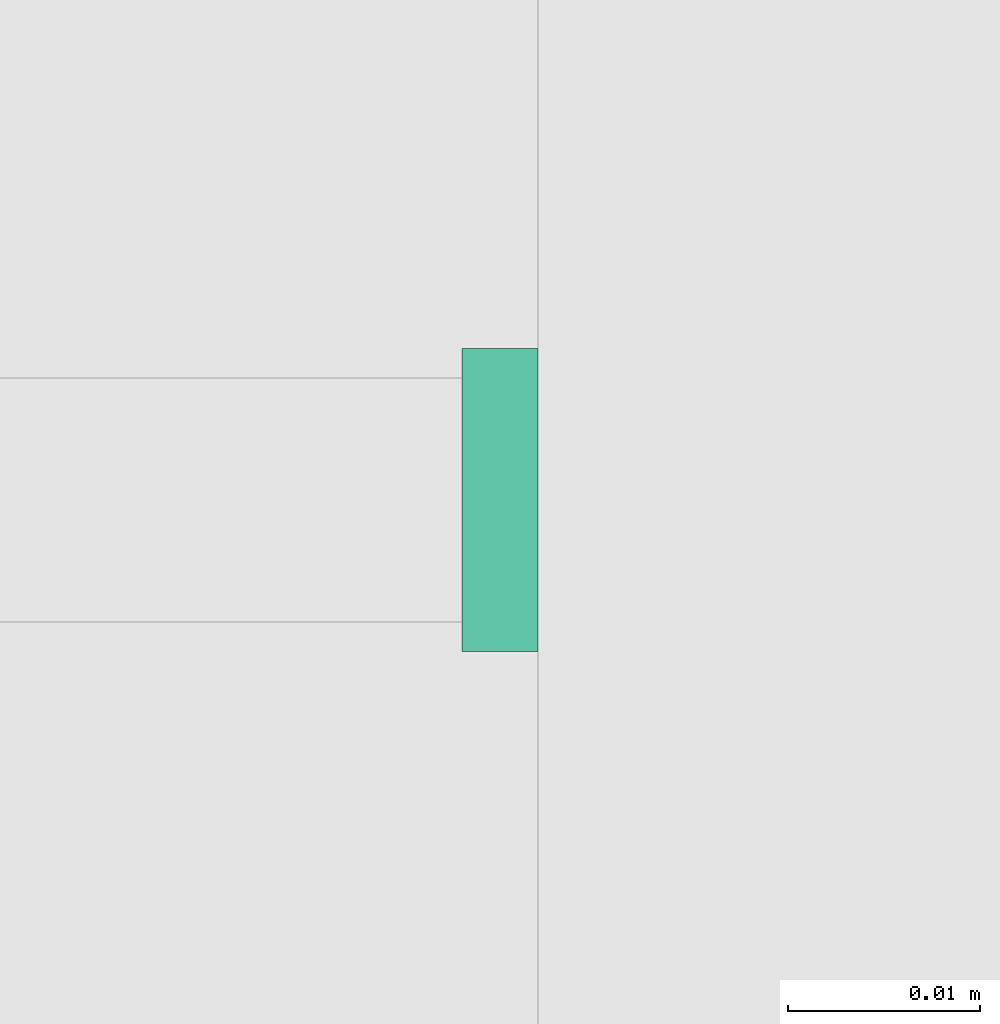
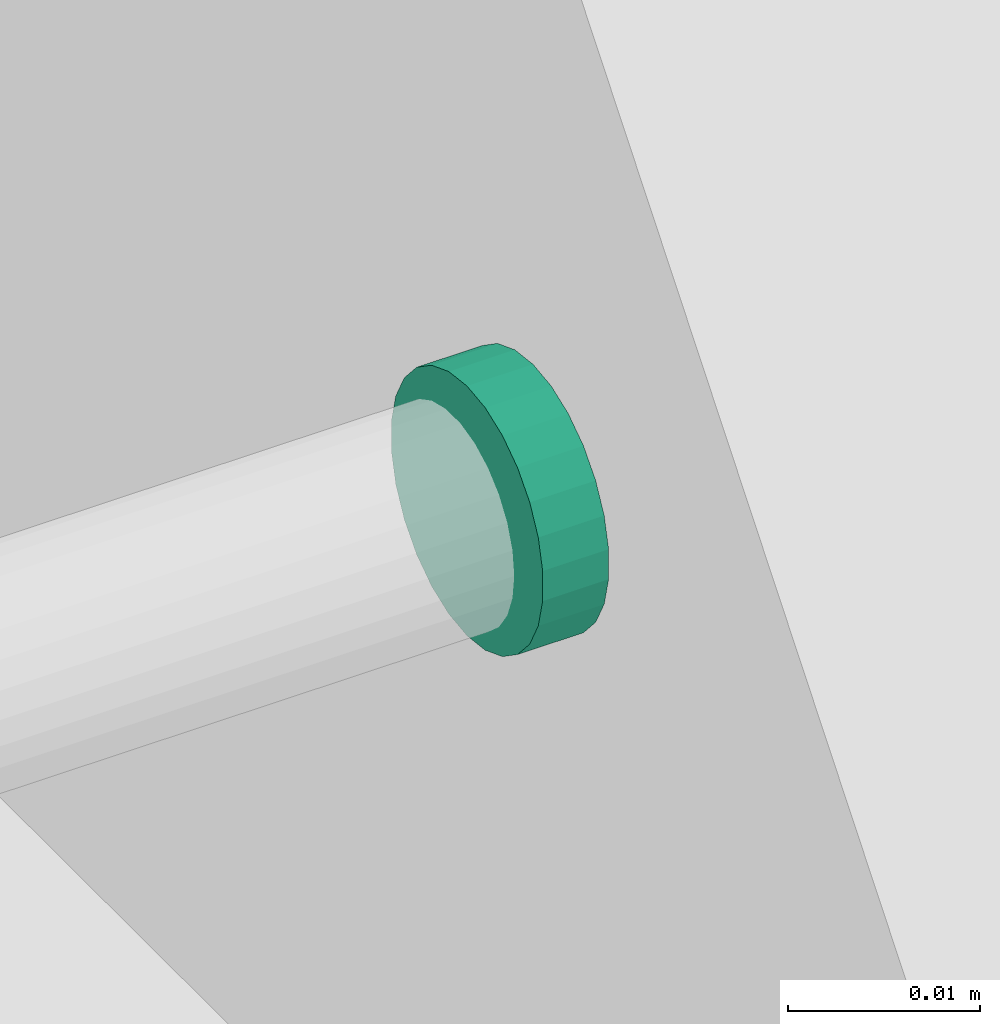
# One storey, part 17 of 24: 1 flow fitting.
"""IFC2X3 building model written with IfcOpenShell, lengths in millimetres."""

from ifc_helpers import new_model, entity, si_unit, converted_unit, derived_unit, direction, frame, origin, origin_2d_with_axis, place, context, subcontext, project, spatial, circle, extrude, source, transform, mapped, material, type_object, type_shapes, element, save


model = new_model("IFC2X3")

# Units and contexts
model_context = context("Model", 3, precision=0.01, world=origin(), true_north=direction((6.123031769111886e-17, 1.0)))
body_context = subcontext(model_context, "Body", "Model", "MODEL_VIEW")
ifc_project = project(units=[si_unit("LENGTHUNIT", "METRE", prefix="MILLI"), si_unit("AREAUNIT", "SQUARE_METRE"), si_unit("VOLUMEUNIT", "CUBIC_METRE"), converted_unit("PLANEANGLEUNIT", "DEGREE", entity("IfcRatioMeasure", 0.017453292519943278), si_unit("PLANEANGLEUNIT", "RADIAN"), dimensions=[0, 0, 0, 0, 0, 0, 0]), si_unit("MASSUNIT", "GRAM", prefix="KILO"), derived_unit("MASSDENSITYUNIT", [(si_unit("MASSUNIT", "GRAM", prefix="KILO"), 1), (si_unit("LENGTHUNIT", "METRE"), -3)]), derived_unit("MOMENTOFINERTIAUNIT", [(si_unit("LENGTHUNIT", "METRE"), 4)]), si_unit("TIMEUNIT", "SECOND"), si_unit("FREQUENCYUNIT", "HERTZ"), si_unit("THERMODYNAMICTEMPERATUREUNIT", "DEGREE_CELSIUS"), derived_unit("THERMALTRANSMITTANCEUNIT", [(si_unit("MASSUNIT", "GRAM", prefix="KILO"), 1), (si_unit("THERMODYNAMICTEMPERATUREUNIT", "KELVIN"), -1), (si_unit("TIMEUNIT", "SECOND"), -3)]), derived_unit("VOLUMETRICFLOWRATEUNIT", [(si_unit("LENGTHUNIT", "METRE"), 3), (si_unit("TIMEUNIT", "SECOND"), -1)]), derived_unit("MASSFLOWRATEUNIT", [(si_unit("MASSUNIT", "GRAM", prefix="KILO"), 1), (si_unit("TIMEUNIT", "SECOND"), -1)]), derived_unit("ROTATIONALFREQUENCYUNIT", [(si_unit("TIMEUNIT", "SECOND"), -1)]), si_unit("ELECTRICCURRENTUNIT", "AMPERE"), si_unit("ELECTRICVOLTAGEUNIT", "VOLT"), si_unit("POWERUNIT", "WATT"), si_unit("FORCEUNIT", "NEWTON", prefix="KILO"), si_unit("ILLUMINANCEUNIT", "LUX"), si_unit("LUMINOUSFLUXUNIT", "LUMEN"), si_unit("LUMINOUSINTENSITYUNIT", "CANDELA"), derived_unit("USERDEFINED", [(si_unit("MASSUNIT", "GRAM", prefix="KILO"), -1), (si_unit("LENGTHUNIT", "METRE"), -2), (si_unit("TIMEUNIT", "SECOND"), 3), (si_unit("LUMINOUSFLUXUNIT", "LUMEN"), 1)]), derived_unit("SOUNDPOWERUNIT", [(si_unit("MASSUNIT", "GRAM", prefix="KILO"), 1), (si_unit("LENGTHUNIT", "METRE"), 2), (si_unit("TIMEUNIT", "SECOND"), -3)]), derived_unit("SOUNDPRESSUREUNIT", [(si_unit("MASSUNIT", "GRAM", prefix="KILO"), 1), (si_unit("LENGTHUNIT", "METRE"), -1), (si_unit("TIMEUNIT", "SECOND"), -2)]), derived_unit("LINEARVELOCITYUNIT", [(si_unit("LENGTHUNIT", "METRE"), 1), (si_unit("TIMEUNIT", "SECOND"), -1)]), si_unit("PRESSUREUNIT", "PASCAL"), derived_unit("USERDEFINED", [(si_unit("LENGTHUNIT", "METRE"), -2), (si_unit("MASSUNIT", "GRAM", prefix="KILO"), 1), (si_unit("TIMEUNIT", "SECOND"), -2)]), derived_unit("LINEARFORCEUNIT", [(si_unit("MASSUNIT", "GRAM", prefix="KILO"), 1), (si_unit("LENGTHUNIT", "METRE"), 1), (si_unit("TIMEUNIT", "SECOND"), -2), (si_unit("LENGTHUNIT", "METRE"), -1)]), derived_unit("PLANARFORCEUNIT", [(si_unit("MASSUNIT", "GRAM", prefix="KILO"), 1), (si_unit("LENGTHUNIT", "METRE"), 1), (si_unit("TIMEUNIT", "SECOND"), -2), (si_unit("LENGTHUNIT", "METRE"), -2)])], contexts=[model_context])

# Site, building, storey
site_placement = place(None, origin())
site = spatial("IfcSite", under=ifc_project, at=site_placement, Name="Default", CompositionType="ELEMENT")
building_placement = place(site_placement, origin())
building = spatial("IfcBuilding", under=site, at=building_placement, CompositionType="ELEMENT")
storey_placement = place(building_placement, origin())
storey = spatial("IfcBuildingStorey", under=building, at=storey_placement, Name="Level 1", CompositionType="ELEMENT", Elevation=0.0)

# Flow fitting
ifc_material = material(Name="<Unnamed>")
pipe_fitting_type = type_object("IfcPipeFittingType", Name="M_Transition - Generic:Standard:Standard : M_Transition - Generic:Standard", PredefinedType="NOTDEFINED", material=ifc_material)
shared_shape = source(origin(), body_context, "Body", "SweptSolid", [
    extrude(circle(Radius=7.937500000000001, at=origin_2d_with_axis()), frame((7848.49920351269, 3266.68869877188, 2710.0), z_axis=(1.0, 0.0, 0.0), x_axis=(0.0, 0.0, 1.0)), (0.0, 0.0, 1.0), 3.9687499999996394),
])
type_shapes(pipe_fitting_type, [shared_shape])
flow_fitting_placement = place(storey_placement, origin())
element("IfcFlowFitting", 1, at=flow_fitting_placement, inside=storey, type_object=pipe_fitting_type, material=ifc_material, Name="M_Transition - Generic:Standard:Standard : M_Transition - Generic:Standard:Standard:Standard : M_Transition - Generic:Standard : M_Transition - Generic:Standard:Standard : M_Transition - Generic:Standard", ObjectType="M_Transition - Generic:Standard:Standard : M_Transition - Generic:Standard:Standard:Standard : M_Transition - Generic:Standard : M_Transition - Generic:Standard:Standard : M_Transition - Generic:Standard", context=body_context, shape_type="MappedRepresentation", body=[
    mapped(shared_shape, transform((0.0, 0.0, 0.0), scale=1.0)),
])

save(model, "model.ifc")
